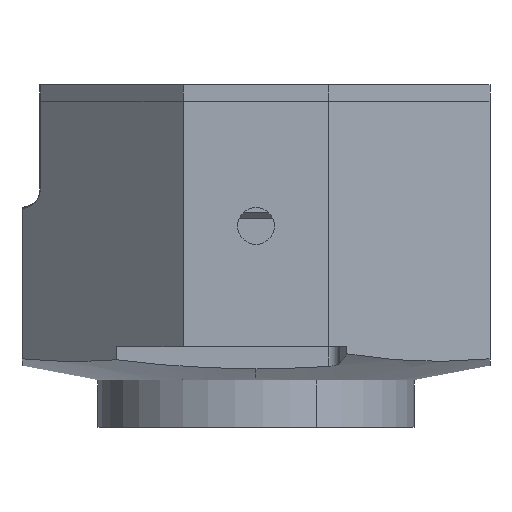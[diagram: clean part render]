
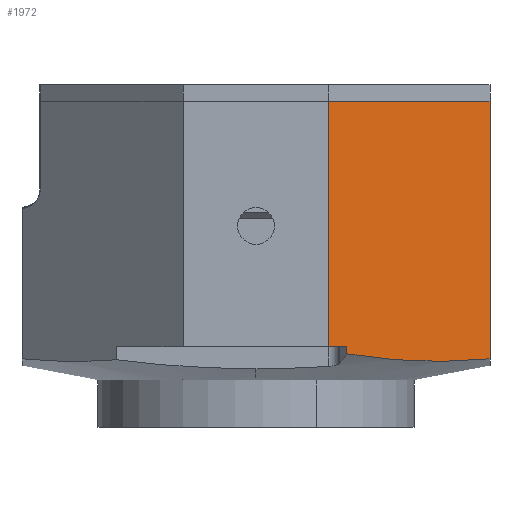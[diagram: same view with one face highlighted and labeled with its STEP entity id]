
A CAD part, front view. The second image highlights one B-rep face of the part: STEP entity #1972.
In plain terms, the highlighted planar face has unit normal (0.707, -0.707, 0).
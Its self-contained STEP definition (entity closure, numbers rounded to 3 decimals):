
#87 = DIRECTION ( 'NONE',  ( -0.707, 0.707, 0. ) ) ;
#1371 = CARTESIAN_POINT ( 'NONE',  ( 8.573, -25.637, 30.2 ) ) ;
#1394 = VECTOR ( 'NONE', #5050, 1000. ) ;
#1972 = ADVANCED_FACE ( 'NONE', ( #15101 ), #13704, .F. ) ;
#3197 = DIRECTION ( 'NONE',  ( -0.707, 0.707, 0. ) ) ;
#3347 = CARTESIAN_POINT ( 'NONE',  ( 8.573, -25.637, 30.2 ) ) ;
#3382 = CARTESIAN_POINT ( 'NONE',  ( 10.203, -24.008, 32.545 ) ) ;
#4021 = AXIS2_PLACEMENT_3D ( 'NONE', #3347, #3197, #9262 ) ;
#4462 = VERTEX_POINT ( 'NONE', #6473 ) ;
#4569 = EDGE_CURVE ( 'NONE', #6759, #4462, #10815, .T. ) ;
#4794 = VECTOR ( 'NONE', #9194, 1000. ) ;
#4988 = VECTOR ( 'NONE', #9358, 1000. ) ;
#5050 = DIRECTION ( 'NONE',  ( 0., 0., 1. ) ) ;
#5937 = CARTESIAN_POINT ( 'NONE',  ( 23.046, -11.164, 32.098 ) ) ;
#6172 = VERTEX_POINT ( 'NONE', #11880 ) ;
#6260 = VERTEX_POINT ( 'NONE', #9908 ) ;
#6280 = EDGE_CURVE ( 'NONE', #9843, #6759, #13350, .T. ) ;
#6437 = EDGE_LOOP ( 'NONE', ( #9273, #7568, #6938, #6570, #10747, #11743 ) ) ;
#6473 = CARTESIAN_POINT ( 'NONE',  ( 8.573, -25.637, 55.2 ) ) ;
#6570 = ORIENTED_EDGE ( 'NONE', *, *, #4569, .T. ) ;
#6676 = EDGE_CURVE ( 'NONE', #6260, #6172, #15093, .T. ) ;
#6759 = VERTEX_POINT ( 'NONE', #13839 ) ;
#6895 = CARTESIAN_POINT ( 'NONE',  ( 8.573, -25.637, 33.2 ) ) ;
#6938 = ORIENTED_EDGE ( 'NONE', *, *, #6280, .T. ) ;
#7049 = VECTOR ( 'NONE', #7485, 1000. ) ;
#7121 = EDGE_CURVE ( 'NONE', #9843, #15092, #8459, .T. ) ;
#7485 = DIRECTION ( 'NONE',  ( 0., 0., 1. ) ) ;
#7567 = EDGE_CURVE ( 'NONE', #15092, #6172, #10316, .T. ) ;
#7568 = ORIENTED_EDGE ( 'NONE', *, *, #7121, .F. ) ;
#7960 = AXIS2_PLACEMENT_3D ( 'NONE', #9092, #87, #14279 ) ;
#8273 = DIRECTION ( 'NONE',  ( 0.707, 0.707, 0. ) ) ;
#8459 = CIRCLE ( 'NONE', #7960, 97.319 ) ;
#8627 = CARTESIAN_POINT ( 'NONE',  ( 23.046, -11.164, 30.2 ) ) ;
#9092 = CARTESIAN_POINT ( 'NONE',  ( 18.31, -15.901, 129.187 ) ) ;
#9194 = DIRECTION ( 'NONE',  ( 0., 0., 1. ) ) ;
#9262 = DIRECTION ( 'NONE',  ( 0.707, 0.707, 0. ) ) ;
#9273 = ORIENTED_EDGE ( 'NONE', *, *, #7567, .F. ) ;
#9358 = DIRECTION ( 'NONE',  ( -0.707, -0.707, 0. ) ) ;
#9564 = LINE ( 'NONE', #1371, #1394 ) ;
#9843 = VERTEX_POINT ( 'NONE', #5937 ) ;
#9908 = CARTESIAN_POINT ( 'NONE',  ( 8.573, -25.637, 33.2 ) ) ;
#10316 = LINE ( 'NONE', #15111, #4794 ) ;
#10747 = ORIENTED_EDGE ( 'NONE', *, *, #11676, .F. ) ;
#10815 = LINE ( 'NONE', #11475, #4988 ) ;
#11475 = CARTESIAN_POINT ( 'NONE',  ( 8.573, -25.637, 55.2 ) ) ;
#11676 = EDGE_CURVE ( 'NONE', #6260, #4462, #9564, .T. ) ;
#11743 = ORIENTED_EDGE ( 'NONE', *, *, #6676, .T. ) ;
#11880 = CARTESIAN_POINT ( 'NONE',  ( 10.203, -24.008, 33.2 ) ) ;
#13350 = LINE ( 'NONE', #8627, #7049 ) ;
#13704 = PLANE ( 'NONE',  #4021 ) ;
#13839 = CARTESIAN_POINT ( 'NONE',  ( 23.046, -11.164, 55.2 ) ) ;
#14123 = VECTOR ( 'NONE', #8273, 1000. ) ;
#14279 = DIRECTION ( 'NONE',  ( 0.707, 0.707, 0. ) ) ;
#15092 = VERTEX_POINT ( 'NONE', #3382 ) ;
#15093 = LINE ( 'NONE', #6895, #14123 ) ;
#15101 = FACE_OUTER_BOUND ( 'NONE', #6437, .T. ) ;
#15111 = CARTESIAN_POINT ( 'NONE',  ( 10.203, -24.008, 30.2 ) ) ;
